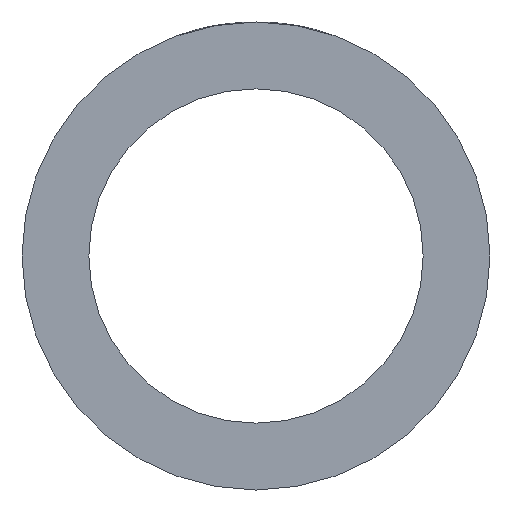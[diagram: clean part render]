
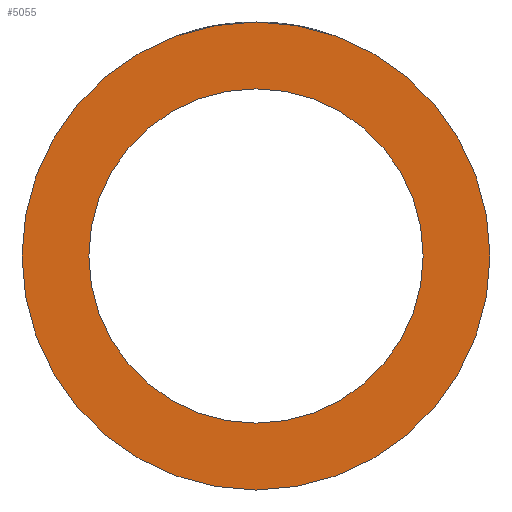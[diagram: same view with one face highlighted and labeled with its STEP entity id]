
A CAD part, left-side view. The second image highlights one B-rep face of the part: STEP entity #5055.
In plain terms, the highlighted planar face has unit normal (-1, 0, 0).
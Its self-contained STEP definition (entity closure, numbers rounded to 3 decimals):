
#118=PLANE('',#5447);
#346=CIRCLE('',#5446,105.);
#347=CIRCLE('',#5448,75.);
#1504=ORIENTED_EDGE('',*,*,#3028,.T.);
#1505=ORIENTED_EDGE('',*,*,#3027,.F.);
#3027=EDGE_CURVE('',#3789,#3789,#346,.T.);
#3028=EDGE_CURVE('',#3790,#3790,#347,.T.);
#3789=VERTEX_POINT('',#8191);
#3790=VERTEX_POINT('',#8194);
#4303=EDGE_LOOP('',(#1504));
#4304=EDGE_LOOP('',(#1505));
#4673=FACE_BOUND('',#4303,.T.);
#4674=FACE_BOUND('',#4304,.T.);
#5055=ADVANCED_FACE('',(#4673,#4674),#118,.F.);
#5446=AXIS2_PLACEMENT_3D('',#8190,#5959,#5960);
#5447=AXIS2_PLACEMENT_3D('',#8192,#5961,#5962);
#5448=AXIS2_PLACEMENT_3D('',#8193,#5963,#5964);
#5959=DIRECTION('',(1.,0.,0.));
#5960=DIRECTION('',(0.,0.,-1.));
#5961=DIRECTION('',(1.,0.,0.));
#5962=DIRECTION('',(0.,0.,-1.));
#5963=DIRECTION('',(1.,0.,0.));
#5964=DIRECTION('',(0.,0.,-1.));
#8190=CARTESIAN_POINT('',(-120.,0.,0.));
#8191=CARTESIAN_POINT('',(-120.,0.,-105.));
#8192=CARTESIAN_POINT('',(-120.,0.,0.));
#8193=CARTESIAN_POINT('',(-120.,0.,0.));
#8194=CARTESIAN_POINT('',(-120.,0.,-75.));
